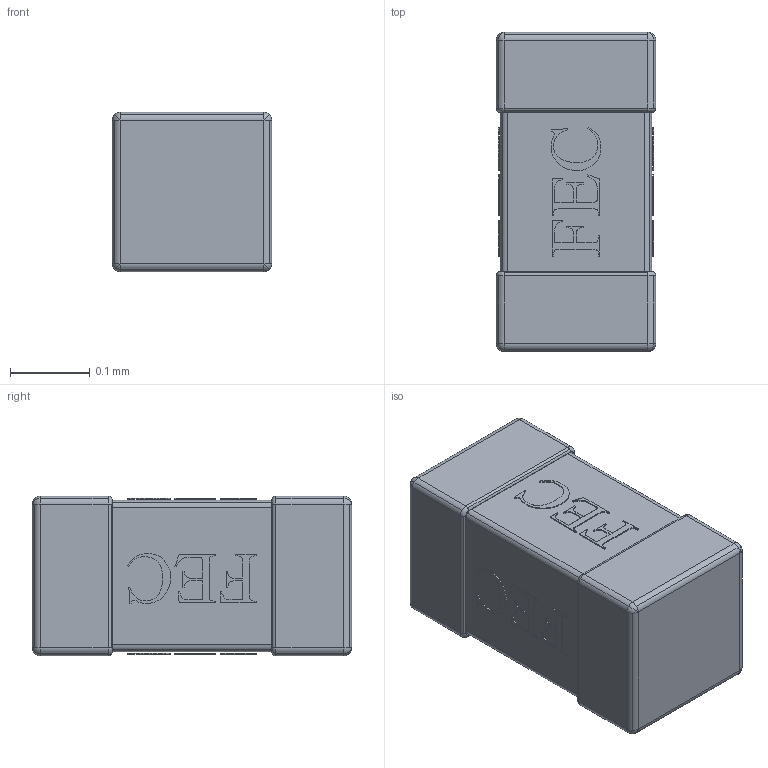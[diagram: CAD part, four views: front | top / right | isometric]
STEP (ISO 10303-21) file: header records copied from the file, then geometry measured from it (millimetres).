
FILE_DESCRIPTION(('STEP AP214'),'1');
FILE_NAME('tmp0.step','2023-08-07T14:35:08',(' '),(' '),'Spatial InterOp 3D',' ',' ');
FILE_SCHEMA(('AUTOMOTIVE_DESIGN { 1 0 10303 214 1 1 1 1 }'));
Length unit declared in the file: millimetre
Products named in the file (1): 1
Bounding box: 0.2 x 0.4 x 0.2 mm (x, y, z)
Volume: 0 mm3; surface area: 0.6 mm2
Topology: 15 solids, 15 shells, 1110 faces, 3200 edges, 2104 vertices
Faces by surface type: plane 1030, cylinder 56, sphere 16, torus 8
Entity records: 35762 total; most frequent: CARTESIAN_POINT 6413, ORIENTED_EDGE 6368, DIRECTION 5562, EDGE_CURVE 3184, LINE 3056, VECTOR 3056, VERTEX_POINT 2104, AXIS2_PLACEMENT_3D 1253
